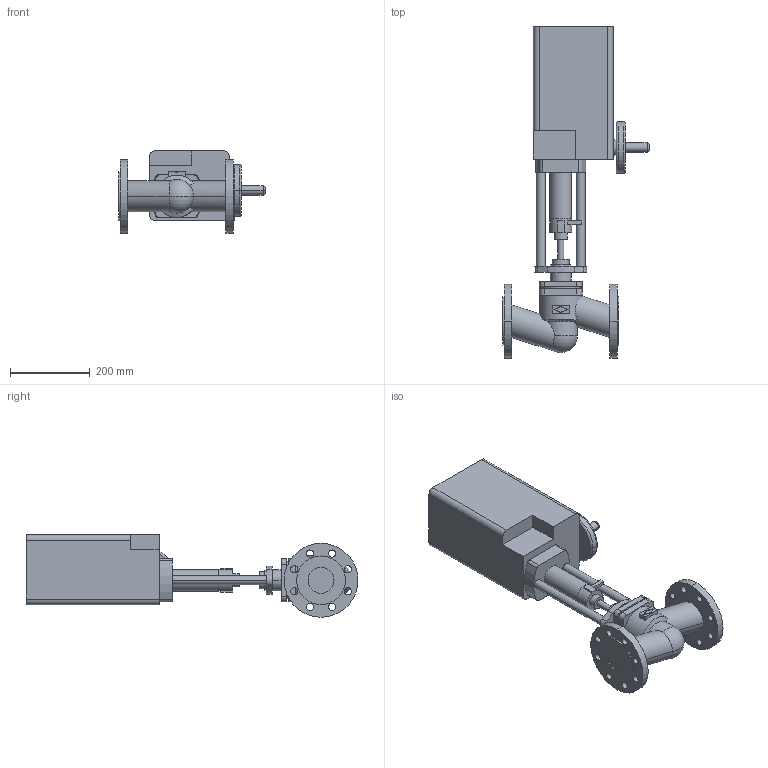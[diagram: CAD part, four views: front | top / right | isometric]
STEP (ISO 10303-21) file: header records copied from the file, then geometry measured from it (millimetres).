
FILE_DESCRIPTION(('OneSpaceDesigner STEP Export'),'2;1');
FILE_NAME('c000001195.stp','2005-01-05T12:53:13',(''),(''),'OneSpace Designer STEP processor (Jan. 2003) for AP203(Solid Model)','OneSpace Designer 12.01D 09-Jul-2004 (C) CoCreate Software GmbH','');
FILE_SCHEMA(('CONFIG_CONTROL_DESIGN'));
Length unit declared in the file: millimetre
Products named in the file (1): 1
Bounding box: 366.6 x 832 x 206.5 mm (x, y, z)
Volume: 15958314.9 mm3; surface area: 691912 mm2
Topology: 1 solids, 1 shells, 189 faces, 478 edges, 316 vertices
Faces by surface type: cylinder 100, plane 79, torus 6, sphere 2, cone 2
Entity records: 5558 total; most frequent: CARTESIAN_POINT 1156, ORIENTED_EDGE 952, DIRECTION 814, EDGE_CURVE 476, VERTEX_POINT 316, AXIS2_PLACEMENT_3D 289, EDGE_LOOP 252, VECTOR 236
